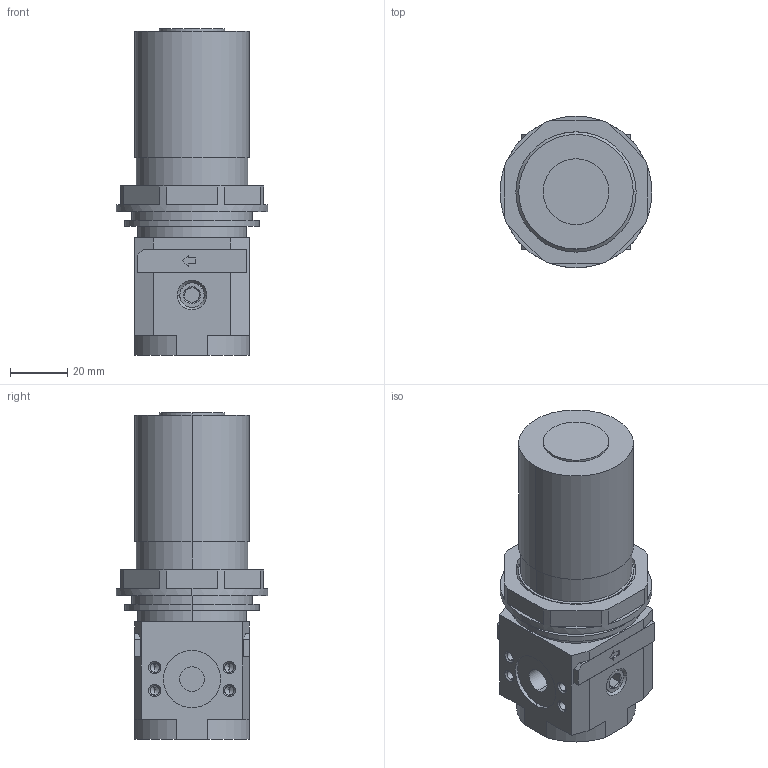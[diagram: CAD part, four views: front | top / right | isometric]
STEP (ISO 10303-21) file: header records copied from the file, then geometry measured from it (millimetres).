
FILE_DESCRIPTION((''),'2;1');
FILE_NAME('I:\DOC-EDP\Lib-3d\FRL\17122A_.stp','2003-06-16T14:51:58',('maffial1'),(''),'Autodesk Inventor 7','Autodesk Inventor 7','');
FILE_SCHEMA(('AUTOMOTIVE_DESIGN { 1 0 10303 214 1 1 1 1 }'));
Length unit declared in the file: millimetre
Products named in the file (4): 17122A_; 17122A_(1); RK_1701_020; RS_1702_12
Assembly tree (3 placements, depth 2):
  17122A_
    17122A_(1)
    RK_1701_020
    RS_1702_12
Bounding box: 53 x 53 x 114 mm (x, y, z)
Volume: 157579.2 mm3; surface area: 29906.5 mm2
Topology: 3 solids, 5 shells, 217 faces, 519 edges, 319 vertices
Faces by surface type: plane 75, bspline 58, cylinder 48, cone 32, torus 4
Entity records: 6664 total; most frequent: CARTESIAN_POINT 1716, DIRECTION 998, ORIENTED_EDGE 998, EDGE_CURVE 499, AXIS2_PLACEMENT_3D 345, VERTEX_POINT 319, VECTOR 308, LINE 308
